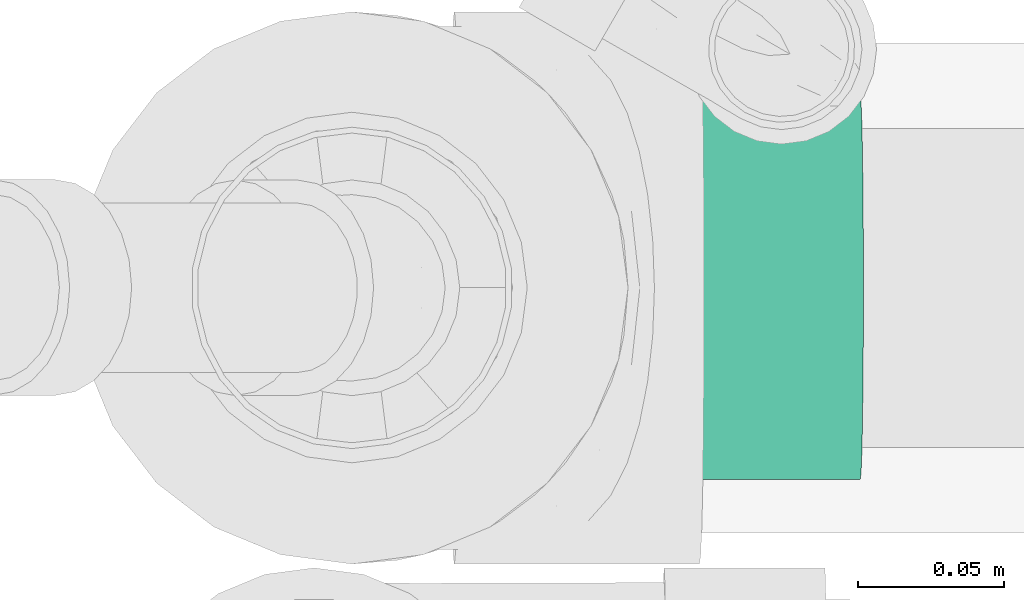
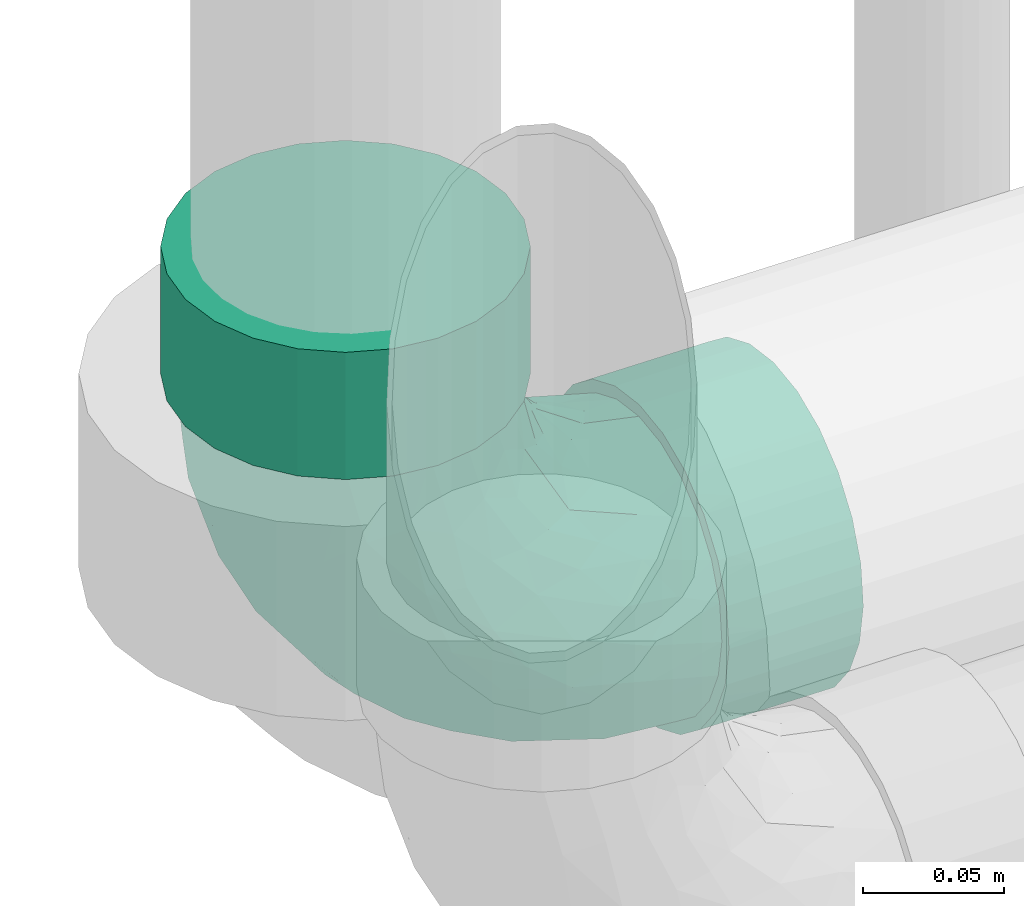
# One storey, part 62 of 78: 1 flow fitting.
"""IFC2X3 building model written with IfcOpenShell, lengths in millimetres."""

from ifc_helpers import new_model, entity, si_unit, converted_unit, derived_unit, direction, frame, origin_with_axes, place, context, subcontext, project, spatial, open_shell, surface_model, source, transform, mapped, type_object, element, save


model = new_model("IFC2X3")

# Units and contexts
model_context = context("Model", 3, precision=0.01, world=frame((0.0, 4.29681676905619e-09, 0.0)), true_north=direction((4.01073788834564e-13, 1.0)))
plan_context = context("Plan", 3, precision=0.01, world=frame((0.0, 4.29681676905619e-09, 0.0)), true_north=direction((4.01073788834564e-13, 1.0)))
body_context = subcontext(model_context, "Body", "Model", "MODEL_VIEW")
ifc_project = project(units=[converted_unit("PLANEANGLEUNIT", "DEGREE", entity("IfcPositiveLengthMeasure", 0.0174532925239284), si_unit("PLANEANGLEUNIT", "RADIAN"), dimensions=[0, 0, 0, 0, 0, 0, 0]), si_unit("AREAUNIT", "SQUARE_METRE"), si_unit("LENGTHUNIT", "METRE", prefix="MILLI"), si_unit("MASSUNIT", "GRAM", prefix="KILO"), si_unit("POWERUNIT", "WATT"), si_unit("PRESSUREUNIT", "PASCAL"), si_unit("FORCEUNIT", "NEWTON", prefix="KILO"), si_unit("ELECTRICVOLTAGEUNIT", "VOLT"), si_unit("ELECTRICCURRENTUNIT", "AMPERE"), si_unit("THERMODYNAMICTEMPERATUREUNIT", "DEGREE_CELSIUS"), si_unit("TIMEUNIT", "SECOND"), si_unit("VOLUMEUNIT", "CUBIC_METRE"), derived_unit("LINEARVELOCITYUNIT", [(si_unit("LENGTHUNIT", "METRE"), 1), (si_unit("TIMEUNIT", "SECOND"), -1)]), derived_unit("VOLUMETRICFLOWRATEUNIT", [(si_unit("VOLUMEUNIT", "CUBIC_METRE"), 1), (si_unit("TIMEUNIT", "SECOND"), -1)]), derived_unit("THERMALTRANSMITTANCEUNIT", [(si_unit("POWERUNIT", "WATT"), 1), (si_unit("THERMODYNAMICTEMPERATUREUNIT", "KELVIN"), -1), (si_unit("AREAUNIT", "SQUARE_METRE"), -1)]), derived_unit("SOUNDPRESSUREUNIT", [(si_unit("PRESSUREUNIT", "PASCAL"), 1)])], contexts=[model_context, plan_context])

# Site, building, storey
site_placement = place(None, frame((0.0, -4.29681676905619e-09, 0.0), z_axis=(0.0, 0.0, 1.0), x_axis=(1.0, 0.0, 0.0)))
site = spatial("IfcSite", under=ifc_project, at=site_placement, Name="ENGM", CompositionType="ELEMENT")
building_placement = place(site_placement, frame((0.0, 4.29681676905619e-09, 0.0), z_axis=(0.0, 0.0, 1.0), x_axis=(1.0, 0.0, 0.0)))
building = spatial("IfcBuilding", under=site, at=building_placement, Name="TH", CompositionType="ELEMENT")
storey_placement = place(building_placement, frame((0.0, 0.0, 205200.0), z_axis=(0.0, 0.0, 1.0), x_axis=(1.0, 0.0, 0.0)))
storey = spatial("IfcBuildingStorey", under=building, at=storey_placement, Name="Nivå D + 1,2 m", CompositionType="ELEMENT", Elevation=205200.0)

# Flow fitting
pipe_fitting_type = type_object("IfcPipeFittingType", Name="magi_sewer_bend_001", PredefinedType="BEND")
shared_shape = source(origin_with_axes(), body_context, "Body", "SurfaceModel", [
    surface_model("IfcShellBasedSurfaceModel", [(-174.00212, -16.95265, -63.26814), (-174.00212, -32.75, -56.72466), (-174.00212, -46.3155, -46.3155), (-174.00212, -63.26814, -16.95265), (-174.00212, 63.26814, 16.95265), (-174.00212, 46.3155, -46.3155), (-174.00212, -56.72466, -32.75), (-174.00212, 16.95265, -63.26814), (-174.00212, 0.0, -65.5), (-174.00212, 32.75, -56.72466), (-174.00212, 56.72466, -32.75), (-174.00212, 65.5, 0.0), (-174.00212, 63.26814, -16.95265), (-174.00212, -65.5, 0.0), (-174.00212, -56.72466, 32.75), (-174.00212, -46.3155, 46.3155), (-174.00212, -16.95265, 63.26814), (-174.00212, -32.75, 56.72466), (-174.00212, 0.0, 65.5), (-174.00212, 46.3155, 46.3155), (-174.00212, 56.72466, 32.75), (-174.00212, 16.95265, 63.26814), (-174.00212, 32.75, 56.72466), (-174.00212, -63.26814, 16.95265), (-119.00211, -16.95265, 63.26814), (-119.00211, 16.95265, 63.26814), (-119.00211, 0.0, 65.5), (-119.00211, -46.3155, 46.3155), (-119.00211, -32.75, 56.72466), (-119.00211, -56.72466, 32.75), (-119.00211, -63.26814, 16.95265), (-119.00211, 63.26814, 16.95265), (-119.00211, 46.3155, 46.3155), (-119.00211, 32.75, 56.72466), (-119.00211, 56.72466, 32.75), (-119.00211, 65.5, 0.0), (-119.00211, -65.5, 0.0), (-119.00211, -63.26814, -16.95265), (-119.00211, 46.3155, -46.3155), (-119.00211, -46.3155, -46.3155), (-119.00211, -56.72466, -32.75), (-119.00211, -32.75, -56.72466), (-119.00211, -16.95265, -63.26814), (-119.00211, 56.72466, -32.75), (-119.00211, 63.26814, -16.95265), (-119.00211, 16.95265, -63.26814), (-119.00211, 32.75, -56.72466), (-119.00211, 0.0, -65.5), (-60.36263, 175.03127, 16.95265), (-53.82006, 174.92234, 32.75), (-43.41233, 174.74905, 46.3155), (-14.05355, 174.26022, 63.26814), (-62.59418, 175.06842, 0.0), (-29.84872, 174.52321, 56.72466), (2.89674, 173.97801, 65.5), (-53.82006, 174.92234, -32.75), (-60.36263, 175.03127, -16.95265), (-43.41233, 174.74905, -46.3155), (-29.84872, 174.52321, -56.72466), (-14.05355, 174.26022, -63.26814), (19.84704, 173.69577, 63.26814), (35.64221, 173.43278, 56.72466), (49.20582, 173.20694, 46.3155), (2.89674, 173.97801, -65.5), (66.15612, 172.92473, 16.95265), (59.61355, 173.03366, 32.75), (68.38767, 172.88758, 0.0), (19.84704, 173.69577, -63.26814), (49.20582, 173.20694, -46.3155), (35.64221, 173.43278, -56.72466), (66.15612, 172.92473, -16.95265), (59.61355, 173.03366, -32.75), (65.24049, 117.93235, 16.95265), (65.24049, 117.93235, -16.95265), (67.47204, 117.89519, 0.0), (48.29019, 118.21458, 46.3155), (58.69792, 118.04129, 32.75), (34.72658, 118.44041, 56.72466), (18.93142, 118.7034, 63.26814), (48.29019, 118.21458, -46.3155), (58.69792, 118.04129, -32.75), (18.93142, 118.7034, -63.26814), (34.72658, 118.44041, -56.72466), (-30.76434, 119.53084, -56.72466), (1.98112, 118.98562, -65.5), (-14.96918, 119.26785, 63.26814), (-61.27825, 120.03889, 16.95265), (-30.76434, 119.53084, 56.72466), (-44.32796, 119.75667, 46.3155), (-54.73569, 119.92996, 32.75), (-44.32796, 119.75667, -46.3155), (-14.96918, 119.26785, -63.26814), (-61.27825, 120.03889, -16.95265), (-54.73569, 119.92996, -32.75), (-63.5098, 120.07605, 0.0), (1.98112, 118.98562, 65.5), (-119.00211, 15.65855, -58.43851), (-119.00211, 0.0, -60.5), (-119.00211, 58.43851, -15.65855), (-119.00211, 30.25, -52.39454), (-119.00211, 52.39454, -30.25), (-119.00211, 42.77996, -42.77996), (-119.00211, -60.5, 0.0), (-119.00211, -30.25, -52.39454), (-119.00211, -42.77996, -42.77996), (-119.00211, -15.65855, -58.43851), (-119.00211, -58.43851, -15.65855), (-119.00211, -52.39454, -30.25), (-119.00211, -58.43851, 15.65855), (-119.00211, 58.43851, 15.65855), (-119.00211, 52.39454, 30.25), (-119.00211, 42.77996, 42.77996), (-119.00211, 30.25, 52.39454), (-119.00211, 15.65855, 58.43851), (-119.00211, -52.39454, 30.25), (-119.00211, -42.77996, 42.77996), (-119.00211, -30.25, 52.39454), (-119.00211, -15.65855, 58.43851), (-119.00211, 0.0, 60.5), (-119.00211, 60.5, 0.0), (-40.79291, 119.69781, -42.77996), (1.98112, 118.98562, -60.5), (-13.67526, 119.2463, -58.43851), (-28.26469, 119.48922, -52.39454), (-50.40616, 119.85787, -30.25), (-56.4493, 119.95849, -15.65855), (62.47274, 117.97844, 0.0), (60.41153, 118.01275, 15.65855), (17.6375, 118.72494, -58.43851), (44.75515, 118.27343, -42.77996), (32.22693, 118.48203, -52.39454), (54.36839, 118.11337, -30.25), (60.41153, 118.01275, -15.65855), (-56.4493, 119.95849, 15.65855), (-40.79291, 119.69781, 42.77996), (-50.40616, 119.85787, 30.25), (-28.26469, 119.48922, 52.39454), (-13.67526, 119.2463, 58.43851), (44.75515, 118.27343, 42.77996), (54.36839, 118.11337, 30.25), (32.22693, 118.48203, 52.39454), (1.98112, 118.98562, 60.5), (17.6375, 118.72494, 58.43851), (-58.5105, 119.99281, 0.0), (-86.97064, -47.00974, 34.00965), (-80.78392, -53.24131, 19.16733), (-72.51309, -54.44521, 0.0), (-89.08925, -56.60411, 0.0), (39.10008, 50.19999, 30.53167), (28.46575, 46.67023, 41.37374), (27.10452, 26.269, 28.93955), (15.6121, 45.13158, 50.36403), (15.04517, 19.28798, 37.76264), (-86.90088, -22.84391, 54.44466), (-45.38523, -14.8586, 50.36403), (-58.85065, -0.69617, 58.67433), (36.10605, 76.6071, 45.09174), (-77.19757, -34.82571, 45.09174), (-43.39087, -41.83465, 15.30065), (-50.81945, -45.56501, 0.0), (-29.1258, -36.68481, 0.0), (-60.0434, 103.94306, 10.26073), (-68.71406, 84.865, 13.05066), (-55.18623, 104.31411, 25.11944), (-103.01677, 36.62699, 49.25861), (-92.75179, 50.41101, 39.65917), (-81.72761, 68.63645, 21.03739), (-72.26389, 71.22142, 29.68188), (-20.02678, 58.58986, 60.36823), (-43.60205, 44.33407, 58.98157), (-35.10602, 25.97182, 60.22488), (-90.77135, -8.01992, 59.47816), (-20.87683, 103.00376, 56.64974), (-6.82597, 88.79129, 60.34761), (-82.97612, 9.26659, 60.39266), (-86.23933, 60.09898, 31.18151), (-99.51469, 59.70603, 21.14989), (-103.46043, 61.66722, 10.01401), (-84.32057, 70.43643, 9.89481), (-26.71659, -26.66345, 28.93955), (-19.53577, -14.72198, 37.76264), (-47.08311, -27.47332, 41.55082), (-76.57975, 77.86541, 0.0), (-96.08261, 65.00941, 0.0), (-91.33829, 23.74799, 57.13702), (-14.77601, 39.18287, 59.39633), (-28.70118, 11.0087, 56.62246), (-4.83553, 31.86066, 55.60311), (-9.89203, 10.05811, 49.6256), (44.12965, 45.82269, 14.96204), (55.64484, 71.59666, 0.0), (54.5788, 79.88638, 19.16733), (-64.96137, 25.68017, 59.41108), (-58.07648, 14.73748, 60.48166), (48.45109, 86.17597, 34.00965), (9.52995, 90.62526, 59.47816), (-50.84396, -38.25894, 30.53167), (58.0794, 88.13456, 0.0), (-48.14433, 76.43704, 47.63824), (-48.04749, 96.62175, 39.32702), (-62.5836, 66.82494, 42.77747), (-24.73696, 80.88784, 57.58428), (-63.40084, 97.15156, 0.0), (-36.69656, 92.47115, 50.11684), (-44.22702, 64.72017, 53.93364), (24.28745, 86.50854, 54.44466), (-63.12552, 40.58877, 55.92428), (-63.07614, 53.90202, 50.27785), (-81.88902, 40.9189, 50.87771), (-33.87379, 62.01446, 57.93394), (1.6758, 58.8309, 58.67433), (6.43944, -6.54756, 17.55686), (-10.4304, -22.54428, 0.0), (8.265, -8.40376, 0.0), (23.51901, 13.41735, 18.60781), (13.3033, 6.60545, 27.47336), (-13.80703, -23.29239, 18.60781), (22.7148, 10.05364, 0.0), (-0.56799, 0.57752, 36.95342), (-3.91012, -10.13121, 28.296), (37.1646, 28.51104, 0.0), (-60.71103, 85.30838, 29.80339), (46.40472, 50.05385, 0.0), (-99.55581, 36.96913, -49.52577), (-47.13766, -27.68485, -41.37373), (-45.38523, -14.8586, -50.36402), (-19.53577, -14.72198, -37.76264), (-88.66535, 8.3032, -60.34761), (24.28745, 86.50854, -54.44466), (15.6121, 45.13158, -50.36402), (1.6758, 58.8309, -58.67433), (-102.64194, 22.58872, -56.64974), (-68.71406, 84.865, -13.05066), (-98.93698, 61.77783, -15.53679), (-60.0434, 103.94306, -10.26073), (-84.32057, 70.43643, -9.89481), (-50.84397, -38.25895, -30.53167), (-26.71659, -26.66345, -28.93955), (-56.9861, 48.0141, -54.99063), (-61.32622, 34.41792, -58.07226), (-76.38175, 43.81616, -50.81733), (-77.19757, -34.82571, -45.09174), (-58.24834, 20.9994, -60.36823), (-43.60205, 44.33407, -58.98157), (-25.38378, 35.53353, -60.22488), (-92.31737, 50.53006, -39.70655), (-80.78392, -53.24131, -19.16733), (-57.91856, 100.12279, -21.77059), (-59.85837, 85.88164, -30.55767), (-39.53224, 63.79247, -55.92428), (-22.22412, 91.72098, -57.13702), (-24.59515, 65.37989, -59.41108), (-86.97064, -47.00974, -34.00965), (-13.76859, 58.31377, -60.48166), (-86.90088, -22.84391, -54.44466), (-62.11358, 55.94133, -49.64556), (-39.54997, 82.55887, -50.87771), (-46.55101, -43.36069, -14.96204), (36.10605, 76.6071, -45.09174), (28.25334, 46.61922, -41.55082), (-90.77135, -8.01992, -59.47816), (-96.22705, 57.40208, -28.34891), (-76.12717, 65.40945, -32.86326), (48.45109, 86.17597, -34.00965), (39.10008, 50.19999, -30.53167), (-81.72761, 68.63645, -21.03739), (-7.88394, 83.11889, -60.39266), (27.10452, 26.269, -28.93955), (15.04517, 19.28798, -37.76264), (-34.90692, 103.61225, -49.25861), (54.5788, 79.88638, -19.16733), (9.52995, 90.62526, -59.47816), (-51.3041, 78.81434, -44.27218), (-47.73524, 97.94553, -39.18324), (-38.93145, 15.42626, -59.39633), (-10.52936, 28.88047, -56.62246), (-31.77575, 5.36526, -55.60311), (42.55121, 42.6884, -15.30065), (-3.91013, -10.13122, -28.29599), (-13.80704, -23.29239, -18.60781), (-80.46482, 26.08013, -57.58428), (-65.77381, 63.68741, -42.77747), (-58.85065, -0.69617, -58.67433), (-9.89203, 10.0581, -49.6256), (6.43945, -6.54756, -17.55686), (13.3033, 6.60545, -27.47336), (-0.56799, 0.57752, -36.95342), (23.51901, 13.41735, -18.60781)], [open_shell([[[0, 1, 2]], [[0, 2, 3]], [[4, 5, 0]], [[3, 2, 6]], [[3, 4, 0]], [[0, 7, 8]], [[0, 9, 7]], [[5, 9, 0]], [[5, 4, 10]], [[10, 11, 12]], [[4, 3, 13]], [[14, 15, 13]], [[13, 15, 4]], [[15, 16, 4]], [[16, 15, 17]], [[18, 4, 16]], [[4, 19, 20]], [[11, 10, 4]], [[19, 21, 22]], [[21, 19, 4]], [[18, 21, 4]], [[23, 14, 13]], [[24, 25, 26]], [[27, 24, 28]], [[27, 29, 30]], [[25, 24, 27]], [[31, 27, 30]], [[25, 32, 33]], [[32, 25, 31]], [[32, 31, 34]], [[25, 27, 31]], [[30, 35, 31]], [[30, 36, 35]], [[37, 38, 36]], [[39, 37, 40]], [[39, 41, 42]], [[39, 42, 37]], [[38, 37, 42]], [[36, 38, 43]], [[44, 35, 43]], [[42, 45, 46]], [[46, 38, 42]], [[42, 47, 45]], [[43, 35, 36]], [[44, 12, 35]], [[43, 10, 44]], [[45, 47, 7]], [[38, 5, 43]], [[44, 10, 12]], [[12, 11, 35]], [[9, 46, 7]], [[9, 5, 38]], [[46, 45, 7]], [[5, 10, 43]], [[38, 46, 9]], [[47, 8, 7]], [[0, 42, 41]], [[39, 1, 41]], [[6, 40, 37]], [[39, 40, 2]], [[3, 37, 36]], [[42, 0, 8]], [[41, 1, 0]], [[39, 2, 1]], [[40, 6, 2]], [[3, 6, 37]], [[36, 13, 3]], [[42, 8, 47]], [[30, 23, 36]], [[29, 14, 30]], [[28, 17, 27]], [[27, 15, 29]], [[30, 14, 23]], [[23, 13, 36]], [[18, 16, 24]], [[16, 17, 28]], [[15, 27, 17]], [[15, 14, 29]], [[24, 16, 28]], [[24, 26, 18]], [[21, 25, 33]], [[32, 22, 33]], [[20, 34, 31]], [[32, 34, 19]], [[4, 31, 35]], [[25, 21, 18]], [[33, 22, 21]], [[32, 19, 22]], [[34, 20, 19]], [[4, 20, 31]], [[35, 11, 4]], [[25, 18, 26]], [[48, 49, 50]], [[48, 50, 51]], [[48, 51, 52]], [[51, 50, 53]], [[52, 51, 54]], [[52, 55, 56]], [[52, 54, 55]], [[57, 55, 54]], [[54, 58, 57]], [[54, 59, 58]], [[54, 60, 59]], [[60, 61, 62]], [[63, 60, 62]], [[63, 62, 64]], [[64, 62, 65]], [[63, 64, 66]], [[67, 68, 69]], [[67, 63, 66]], [[68, 70, 71]], [[70, 68, 67]], [[66, 70, 67]], [[60, 63, 59]], [[72, 73, 74]], [[75, 72, 76]], [[75, 77, 78]], [[72, 75, 73]], [[78, 73, 75]], [[73, 79, 80]], [[79, 73, 81]], [[79, 81, 82]], [[73, 78, 81]], [[81, 83, 84]], [[81, 78, 85]], [[81, 85, 83]], [[86, 85, 87]], [[88, 89, 86]], [[88, 86, 87]], [[83, 85, 86]], [[86, 90, 83]], [[91, 84, 83]], [[86, 92, 93]], [[90, 86, 93]], [[92, 86, 94]], [[85, 78, 95]], [[91, 59, 84]], [[83, 58, 91]], [[92, 94, 56]], [[90, 57, 83]], [[91, 58, 59]], [[59, 63, 84]], [[55, 93, 56]], [[55, 57, 90]], [[93, 92, 56]], [[57, 58, 83]], [[90, 93, 55]], [[94, 52, 56]], [[48, 86, 89]], [[88, 49, 89]], [[53, 87, 85]], [[88, 87, 50]], [[51, 85, 95]], [[86, 48, 52]], [[89, 49, 48]], [[88, 50, 49]], [[87, 53, 50]], [[51, 53, 85]], [[95, 54, 51]], [[86, 52, 94]], [[78, 60, 95]], [[77, 61, 78]], [[76, 65, 75]], [[75, 62, 77]], [[78, 61, 60]], [[60, 54, 95]], [[66, 64, 72]], [[64, 65, 76]], [[62, 75, 65]], [[62, 61, 77]], [[72, 64, 76]], [[72, 74, 66]], [[70, 73, 80]], [[79, 71, 80]], [[69, 82, 81]], [[79, 82, 68]], [[67, 81, 84]], [[73, 70, 66]], [[80, 71, 70]], [[79, 68, 71]], [[82, 69, 68]], [[67, 69, 81]], [[84, 63, 67]], [[73, 66, 74]], [[96, 97, 98]], [[99, 96, 98]], [[98, 100, 101]], [[99, 98, 101]], [[102, 98, 97]], [[103, 104, 105]], [[104, 97, 105]], [[106, 102, 107]], [[104, 107, 102]], [[104, 102, 97]], [[102, 108, 98]], [[109, 98, 108]], [[110, 109, 111]], [[112, 109, 108]], [[111, 109, 112]], [[113, 112, 108]], [[114, 115, 108]], [[116, 108, 115]], [[117, 118, 116]], [[108, 116, 118]], [[118, 113, 108]], [[119, 98, 109]], [[120, 121, 122]], [[120, 122, 123]], [[120, 124, 125]], [[120, 125, 121]], [[126, 121, 127]], [[128, 129, 130]], [[129, 128, 126]], [[131, 126, 132]], [[126, 131, 129]], [[128, 121, 126]], [[121, 125, 127]], [[127, 125, 133]], [[134, 133, 135]], [[133, 136, 127]], [[136, 133, 134]], [[137, 127, 136]], [[127, 138, 139]], [[138, 127, 140]], [[140, 141, 142]], [[141, 140, 127]], [[127, 137, 141]], [[133, 125, 143]], [[144, 114, 145]], [[146, 145, 147]], [[148, 149, 150]], [[145, 114, 108]], [[108, 147, 145]], [[149, 151, 152]], [[115, 114, 144]], [[153, 154, 155]], [[156, 138, 140]], [[157, 116, 115]], [[157, 153, 116]], [[158, 159, 160]], [[161, 162, 163]], [[111, 164, 165]], [[162, 166, 167]], [[110, 111, 165]], [[168, 169, 170]], [[112, 164, 111]], [[117, 171, 118]], [[137, 172, 173]], [[118, 174, 113]], [[175, 176, 110]], [[149, 148, 156]], [[119, 109, 177]], [[166, 178, 177]], [[179, 180, 181]], [[182, 183, 178]], [[184, 113, 174]], [[113, 184, 112]], [[185, 186, 187]], [[188, 154, 180]], [[166, 177, 176]], [[189, 190, 191]], [[192, 193, 170]], [[148, 191, 194]], [[184, 164, 112]], [[189, 191, 148]], [[142, 141, 195]], [[144, 196, 157]], [[191, 127, 139]], [[133, 163, 135]], [[194, 191, 139]], [[145, 146, 159]], [[191, 197, 127]], [[139, 138, 194]], [[198, 199, 200]], [[201, 168, 173]], [[178, 162, 182]], [[118, 171, 174]], [[202, 161, 143]], [[136, 134, 203]], [[182, 162, 202]], [[175, 167, 166]], [[203, 201, 172]], [[204, 201, 203]], [[135, 163, 199]], [[205, 140, 142]], [[116, 153, 117]], [[156, 205, 151]], [[136, 172, 137]], [[141, 137, 173]], [[154, 157, 181]], [[161, 202, 162]], [[156, 140, 205]], [[206, 184, 192]], [[198, 207, 204]], [[207, 165, 208]], [[176, 175, 166]], [[199, 134, 135]], [[209, 204, 169]], [[201, 209, 168]], [[195, 173, 210]], [[154, 153, 157]], [[171, 153, 155]], [[154, 181, 180]], [[154, 188, 186]], [[195, 205, 142]], [[210, 187, 151]], [[210, 151, 205]], [[151, 188, 152]], [[211, 212, 213]], [[211, 214, 215]], [[216, 158, 160]], [[211, 217, 214]], [[180, 218, 188]], [[219, 180, 179]], [[150, 215, 214]], [[189, 214, 220]], [[196, 144, 145]], [[157, 115, 144]], [[138, 156, 194]], [[148, 194, 156]], [[192, 184, 174]], [[164, 184, 208]], [[177, 178, 183]], [[162, 178, 166]], [[119, 177, 183]], [[177, 109, 176]], [[109, 110, 176]], [[175, 110, 165]], [[165, 200, 175]], [[167, 200, 221]], [[203, 198, 204]], [[206, 207, 208]], [[192, 170, 169]], [[210, 173, 168]], [[186, 170, 155]], [[168, 170, 185]], [[173, 195, 141]], [[205, 195, 210]], [[153, 171, 117]], [[174, 171, 155]], [[200, 199, 221]], [[203, 134, 199]], [[192, 174, 193]], [[206, 192, 169]], [[204, 206, 169]], [[184, 206, 208]], [[204, 207, 206]], [[165, 207, 200]], [[174, 155, 193]], [[155, 170, 193]], [[200, 167, 175]], [[162, 167, 221]], [[154, 186, 155]], [[187, 186, 188]], [[151, 187, 188]], [[185, 187, 210]], [[168, 185, 210]], [[186, 185, 170]], [[163, 162, 221]], [[143, 161, 133]], [[108, 102, 147]], [[197, 191, 190]], [[197, 126, 127]], [[165, 164, 208]], [[203, 172, 136]], [[173, 172, 201]], [[161, 163, 133]], [[199, 163, 221]], [[216, 179, 158]], [[159, 158, 145]], [[145, 158, 196]], [[189, 148, 150]], [[189, 222, 190]], [[157, 196, 181]], [[179, 181, 196]], [[158, 179, 196]], [[219, 179, 216]], [[219, 216, 211]], [[218, 180, 219]], [[211, 216, 212]], [[168, 209, 169]], [[215, 218, 219]], [[188, 218, 152]], [[216, 160, 212]], [[151, 149, 156]], [[150, 149, 152]], [[152, 218, 215]], [[189, 150, 214]], [[152, 215, 150]], [[211, 215, 219]], [[217, 211, 213]], [[217, 220, 214]], [[201, 204, 209]], [[199, 198, 203]], [[207, 198, 200]], [[189, 220, 222]], [[99, 101, 223]], [[224, 225, 226]], [[97, 96, 227]], [[228, 229, 230]], [[96, 99, 231]], [[182, 202, 232]], [[183, 233, 119]], [[202, 234, 232]], [[235, 233, 183]], [[236, 224, 237]], [[238, 239, 240]], [[241, 224, 236]], [[242, 243, 244]], [[100, 245, 101]], [[107, 246, 106]], [[247, 124, 248]], [[246, 147, 106]], [[249, 250, 251]], [[246, 107, 252]], [[251, 253, 244]], [[241, 103, 254]], [[249, 255, 256]], [[245, 240, 223]], [[132, 126, 197]], [[257, 146, 246]], [[229, 258, 259]], [[260, 105, 97]], [[236, 246, 252]], [[241, 254, 225]], [[245, 261, 262]], [[182, 235, 183]], [[263, 264, 258]], [[265, 235, 232]], [[250, 122, 266]], [[125, 234, 143]], [[267, 268, 259]], [[254, 103, 105]], [[265, 232, 248]], [[123, 269, 120]], [[263, 131, 270]], [[123, 122, 250]], [[121, 271, 266]], [[241, 104, 103]], [[272, 248, 273]], [[124, 273, 248]], [[121, 128, 271]], [[129, 258, 130]], [[96, 231, 227]], [[274, 275, 276]], [[222, 220, 277]], [[237, 278, 279]], [[228, 130, 258]], [[270, 131, 132]], [[280, 242, 227]], [[270, 197, 190]], [[107, 104, 252]], [[124, 120, 273]], [[197, 270, 132]], [[130, 228, 128]], [[131, 263, 129]], [[121, 266, 122]], [[233, 261, 98]], [[257, 246, 236]], [[281, 262, 248]], [[270, 190, 222]], [[232, 234, 247]], [[261, 233, 265]], [[240, 245, 281]], [[280, 239, 242]], [[260, 227, 282]], [[260, 254, 105]], [[282, 276, 225]], [[282, 225, 254]], [[225, 283, 226]], [[229, 228, 258]], [[271, 228, 230]], [[229, 259, 268]], [[229, 283, 275]], [[268, 283, 229]], [[284, 212, 279]], [[285, 268, 267]], [[257, 279, 160]], [[284, 217, 213]], [[283, 268, 286]], [[287, 277, 220]], [[278, 284, 279]], [[104, 241, 252]], [[236, 252, 241]], [[264, 263, 270]], [[258, 129, 263]], [[251, 250, 266]], [[269, 250, 256]], [[249, 238, 255]], [[280, 231, 223]], [[232, 235, 182]], [[233, 235, 265]], [[262, 261, 265]], [[233, 98, 119]], [[245, 100, 261]], [[98, 261, 100]], [[251, 244, 243]], [[282, 227, 242]], [[275, 244, 230]], [[242, 244, 274]], [[227, 260, 97]], [[254, 260, 282]], [[228, 271, 128]], [[266, 271, 230]], [[248, 262, 265]], [[245, 262, 281]], [[269, 273, 120]], [[272, 273, 256]], [[251, 266, 253]], [[249, 251, 243]], [[238, 249, 243]], [[250, 249, 256]], [[239, 238, 243]], [[255, 238, 240]], [[266, 230, 253]], [[230, 244, 253]], [[242, 239, 243]], [[240, 239, 280]], [[240, 281, 255]], [[255, 281, 272]], [[245, 223, 101]], [[280, 223, 240]], [[229, 275, 230]], [[276, 275, 283]], [[225, 276, 283]], [[274, 276, 282]], [[242, 274, 282]], [[275, 274, 244]], [[143, 234, 202]], [[247, 234, 125]], [[124, 247, 125]], [[232, 247, 248]], [[147, 246, 146]], [[147, 102, 106]], [[250, 269, 123]], [[273, 269, 256]], [[223, 231, 99]], [[227, 231, 280]], [[257, 236, 237]], [[257, 159, 146]], [[287, 267, 277]], [[222, 277, 270]], [[270, 277, 264]], [[225, 224, 241]], [[237, 224, 226]], [[278, 237, 226]], [[257, 237, 279]], [[286, 278, 226]], [[278, 285, 284]], [[284, 287, 217]], [[258, 264, 259]], [[283, 286, 226]], [[285, 286, 268]], [[212, 284, 213]], [[212, 160, 279]], [[267, 259, 264]], [[277, 267, 264]], [[285, 267, 287]], [[284, 285, 287]], [[285, 278, 286]], [[287, 220, 217]], [[255, 272, 256]], [[248, 272, 281]], [[257, 160, 159]]])]),
])
flow_fitting_placement = place(storey_placement, frame((899103.43178, 483269.44467, 4435.96666999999), z_axis=(0.0, -0.9999999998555, 1.69999999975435e-05), x_axis=(-2.6999999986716e-05, -1.6999999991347e-05, -0.999999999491)))
element("IfcFlowFitting", 1, at=flow_fitting_placement, inside=storey, type_object=pipe_fitting_type, Name="magi_sewer_bend_001", context=body_context, shape_type="MappedRepresentation", body=[
    mapped(shared_shape, transform((0.0, 0.0, 0.0), scale=1.0)),
])

save(model, "model.ifc")
